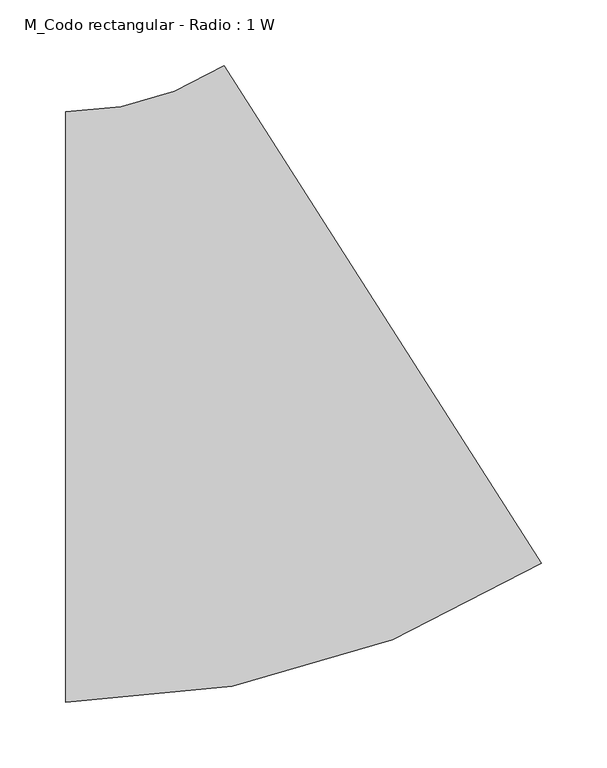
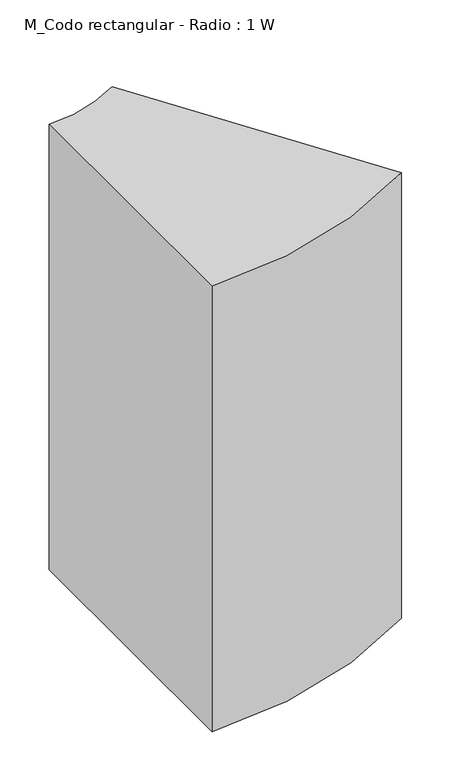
"""IFC4 building model written with IfcOpenShell, lengths in millimetres: duct fitting geometry, M_Codo rectangular - Radio : 1 W."""

from ifc_helpers import new_model, si_unit, point, frame, frame_2d, origin, place, context, project, spatial, polyline, circle_curve, trimmed, segment, composite_curve, outline, extrude, source, transform, mapped, element, save


def m_codo_rectangular_radio_1_w_6496bed7(model_context):
    return source(origin(), model_context, "Body", "SweptSolid", [
        extrude(outline(composite_curve([segment(trimmed(circle_curve(frame_2d((-131.3131156, 450.0)), 675.0), [point((231.7140068, -119.0661723))], [point((-131.3131156, -225.0))], False, "CARTESIAN"), True, "CONTINUOUS"), segment(polyline([(-131.3131156, -225.0), (-131.3131156, 225.0)]), True, "CONTINUOUS"), segment(trimmed(circle_curve(frame_2d((-131.3131156, 450.0)), 225.0), [point((-131.3131156, 225.0))], [point((-10.3040748, 260.3112759))], True, "CARTESIAN"), True, "CONTINUOUS"), segment(polyline([(-10.3040748, 260.3112759), (231.7140068, -119.0661723)]), True, "CONTINUOUS")], self_intersect=False)), frame((0.0, 0.0, -375.0), z_axis=(0.0, 0.0, 1.0), x_axis=(1.0, 0.0, 0.0)), (0.0, 0.0, 1.0), 750.0),
    ])


if __name__ == "__main__":
    model = new_model("IFC4")
    model_context = context("Model", 3, world=origin())
    ifc_project = project(units=[si_unit("LENGTHUNIT", "METRE", prefix="MILLI")], contexts=[model_context])
    site = spatial("IfcSite", under=ifc_project)
    building = spatial("IfcBuilding", under=site)
    placement = place(None, origin())
    m_codo_rectangular_radio_1_w_shape = m_codo_rectangular_radio_1_w_6496bed7(model_context)
    element("IfcDuctFitting", 1, ObjectType="M_Codo rectangular - Radio : 1 W", at=placement, inside=building, context=model_context, shape_type="MappedRepresentation", body=[
        mapped(m_codo_rectangular_radio_1_w_shape, transform((0.0, 0.0, 0.0), x_axis=(1.0, 0.0, 0.0), y_axis=(0.0, 1.0, 0.0), z_axis=(0.0, 0.0, 1.0))),
    ])
    save(model, "model.ifc")
